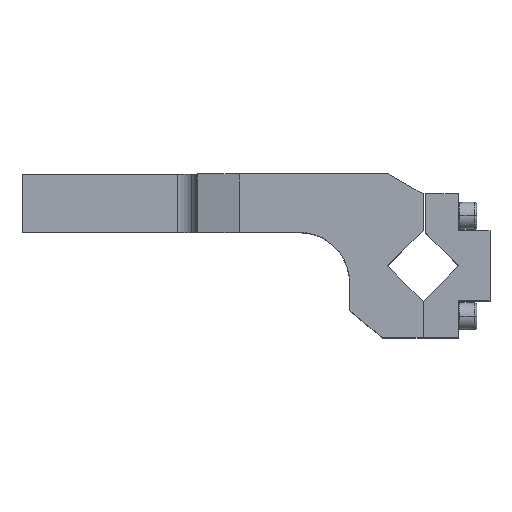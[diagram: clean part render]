
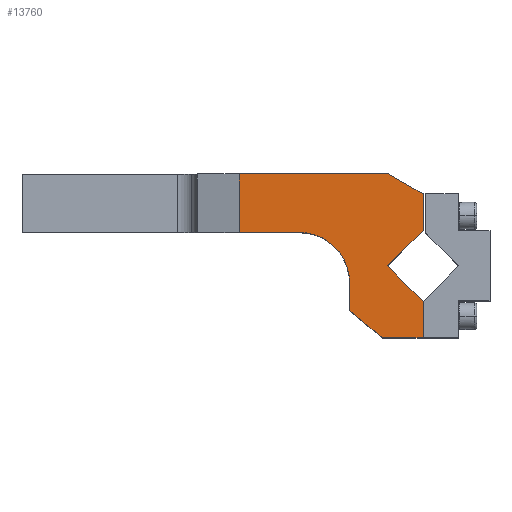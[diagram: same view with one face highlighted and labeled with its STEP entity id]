
A CAD part, top view. The second image highlights one B-rep face of the part: STEP entity #13760.
In plain terms, the highlighted planar face has unit normal (0, 0, 1).
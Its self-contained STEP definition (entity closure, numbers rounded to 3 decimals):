
#49=CARTESIAN_POINT('',(76.024,-85.79,-104.608));
#50=VERTEX_POINT('',#49);
#59=CARTESIAN_POINT('',(54.811,-77.003,-104.608));
#60=VERTEX_POINT('',#59);
#61=CARTESIAN_POINT('',(54.811,-107.003,-104.608));
#62=DIRECTION('',(0.,0.,1.0));
#63=DIRECTION('',(0.707,0.707,0.));
#64=AXIS2_PLACEMENT_3D('',#61,#62,#63);
#65=CIRCLE('',#64,30.0);
#66=EDGE_CURVE('',#50,#60,#65,.T.);
#12127=CARTESIAN_POINT('',(128.811,-118.216,-104.608));
#12128=VERTEX_POINT('',#12127);
#12135=CARTESIAN_POINT('',(128.811,-140.003,-104.608));
#12136=VERTEX_POINT('',#12135);
#12137=CARTESIAN_POINT('',(128.811,-140.003,-104.608));
#12138=DIRECTION('',(0.0,1.0,0.0));
#12139=VECTOR('',#12138,21.787);
#12140=LINE('',#12137,#12139);
#12141=EDGE_CURVE('',#12136,#12128,#12140,.T.);
#12661=CARTESIAN_POINT('',(18.811,-42.003,-104.608));
#12662=VERTEX_POINT('',#12661);
#12669=CARTESIAN_POINT('',(108.026,-42.003,-104.608));
#12670=VERTEX_POINT('',#12669);
#12671=CARTESIAN_POINT('',(108.026,-42.003,-104.608));
#12672=DIRECTION('',(-1.0,0.0,0.0));
#12673=VECTOR('',#12672,89.215);
#12674=LINE('',#12671,#12673);
#12675=EDGE_CURVE('',#12670,#12662,#12674,.T.);
#13368=CARTESIAN_POINT('',(18.811,-77.003,-104.608));
#13369=VERTEX_POINT('',#13368);
#13370=CARTESIAN_POINT('',(18.811,-77.003,-104.608));
#13371=DIRECTION('',(1.0,0.0,0.0));
#13372=VECTOR('',#13371,36.);
#13373=LINE('',#13370,#13372);
#13374=EDGE_CURVE('',#13369,#60,#13373,.T.);
#13584=CARTESIAN_POINT('',(84.811,-107.003,-104.608));
#13585=VERTEX_POINT('',#13584);
#13592=CARTESIAN_POINT('',(54.811,-107.003,-104.608));
#13593=DIRECTION('',(0.,0.,1.0));
#13594=DIRECTION('',(0.707,0.707,0.));
#13595=AXIS2_PLACEMENT_3D('',#13592,#13593,#13594);
#13596=CIRCLE('',#13595,30.0);
#13597=EDGE_CURVE('',#13585,#50,#13596,.T.);
#13616=CARTESIAN_POINT('',(84.811,-123.641,-104.608));
#13617=VERTEX_POINT('',#13616);
#13624=CARTESIAN_POINT('',(84.811,-107.003,-104.608));
#13625=DIRECTION('',(0.0,-1.0,0.0));
#13626=VECTOR('',#13625,16.638);
#13627=LINE('',#13624,#13626);
#13628=EDGE_CURVE('',#13585,#13617,#13627,.T.);
#13697=CARTESIAN_POINT('',(129.063,-97.003,-104.608));
#13698=DIRECTION('',(0.0,0.0,1.0));
#13699=DIRECTION('',(1.0,0.0,0.0));
#13700=AXIS2_PLACEMENT_3D('',#13697,#13698,#13699);
#13701=PLANE('',#13700);
#13702=ORIENTED_EDGE('',*,*,#13374,.T.);
#13703=ORIENTED_EDGE('',*,*,#66,.F.);
#13704=ORIENTED_EDGE('',*,*,#13597,.F.);
#13705=ORIENTED_EDGE('',*,*,#13628,.T.);
#13706=CARTESIAN_POINT('',(104.311,-140.003,-104.608));
#13707=VERTEX_POINT('',#13706);
#13708=CARTESIAN_POINT('',(84.811,-123.641,-104.608));
#13709=DIRECTION('',(0.766,-0.643,0.));
#13710=VECTOR('',#13709,25.455);
#13711=LINE('',#13708,#13710);
#13712=EDGE_CURVE('',#13617,#13707,#13711,.T.);
#13713=ORIENTED_EDGE('',*,*,#13712,.T.);
#13714=CARTESIAN_POINT('',(104.311,-140.003,-104.608));
#13715=DIRECTION('',(1.0,0.0,0.0));
#13716=VECTOR('',#13715,24.5);
#13717=LINE('',#13714,#13716);
#13718=EDGE_CURVE('',#13707,#12136,#13717,.T.);
#13719=ORIENTED_EDGE('',*,*,#13718,.T.);
#13720=ORIENTED_EDGE('',*,*,#12141,.T.);
#13721=CARTESIAN_POINT('',(107.598,-97.003,-104.608));
#13722=VERTEX_POINT('',#13721);
#13723=CARTESIAN_POINT('',(128.811,-118.216,-104.608));
#13724=DIRECTION('',(-0.707,0.707,0.));
#13725=VECTOR('',#13724,30.);
#13726=LINE('',#13723,#13725);
#13727=EDGE_CURVE('',#12128,#13722,#13726,.T.);
#13728=ORIENTED_EDGE('',*,*,#13727,.T.);
#13729=CARTESIAN_POINT('',(128.811,-75.79,-104.608));
#13730=VERTEX_POINT('',#13729);
#13731=CARTESIAN_POINT('',(107.598,-97.003,-104.608));
#13732=DIRECTION('',(0.707,0.707,0.));
#13733=VECTOR('',#13732,30.);
#13734=LINE('',#13731,#13733);
#13735=EDGE_CURVE('',#13722,#13730,#13734,.T.);
#13736=ORIENTED_EDGE('',*,*,#13735,.T.);
#13737=CARTESIAN_POINT('',(128.811,-54.003,-104.608));
#13738=VERTEX_POINT('',#13737);
#13739=CARTESIAN_POINT('',(128.811,-75.79,-104.608));
#13740=DIRECTION('',(0.0,1.0,0.0));
#13741=VECTOR('',#13740,21.787);
#13742=LINE('',#13739,#13741);
#13743=EDGE_CURVE('',#13730,#13738,#13742,.T.);
#13744=ORIENTED_EDGE('',*,*,#13743,.T.);
#13745=CARTESIAN_POINT('',(128.811,-54.003,-104.608));
#13746=DIRECTION('',(-0.866,0.5,0.));
#13747=VECTOR('',#13746,24.);
#13748=LINE('',#13745,#13747);
#13749=EDGE_CURVE('',#13738,#12670,#13748,.T.);
#13750=ORIENTED_EDGE('',*,*,#13749,.T.);
#13751=ORIENTED_EDGE('',*,*,#12675,.T.);
#13752=CARTESIAN_POINT('',(18.811,-42.003,-104.608));
#13753=DIRECTION('',(0.0,-1.0,0.0));
#13754=VECTOR('',#13753,35.);
#13755=LINE('',#13752,#13754);
#13756=EDGE_CURVE('',#12662,#13369,#13755,.T.);
#13757=ORIENTED_EDGE('',*,*,#13756,.T.);
#13758=EDGE_LOOP('',(#13702,#13703,#13704,#13705,#13713,#13719,#13720,#13728,#13736,#13744,#13750,#13751,#13757));
#13759=FACE_OUTER_BOUND('',#13758,.T.);
#13760=ADVANCED_FACE('',(#13759),#13701,.T.);
